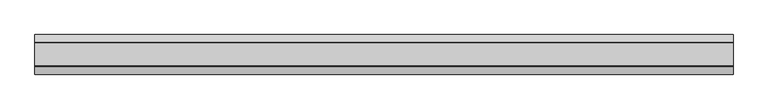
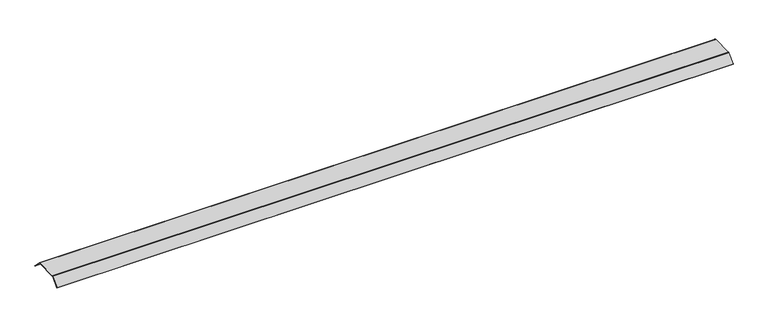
"""IFC4 building model written with IfcOpenShell, lengths in millimetres: proxy geometry, Electrical_Installation_Hager_Blank-Cover-800mm-Double-Sided-Height-70mm : Electrical_Installation_Hager_Blank-Cover-800mm-Double-Sided-Height-70mm."""

from ifc_helpers import new_model, si_unit, point, frame, frame_2d, origin, place, context, project, spatial, polyline, circle_curve, trimmed, segment, composite_curve, outline, extrude, source, transform, mapped, element, save


def electrical_fixtures_575a85fa(model_context):
    return source(origin(), model_context, "Body", "SweptSolid", [
        extrude(outline(composite_curve([segment(trimmed(circle_curve(frame_2d((100.0, 36.5)), 4.0), [point((100.0, 40.5))], [point((102.8284271, 39.3284271))], False, "CARTESIAN"), True, "CONTINUOUS"), segment(polyline([(102.8284271, 39.3284271), (170.78408, -28.6272257), (168.6627596, -30.7485461), (100.996177, 36.9180366)]), True, "CONTINUOUS"), segment(trimmed(circle_curve(frame_2d((99.591193, 35.5130527)), 1.9869473), [point((100.996177, 36.9180366))], [point((99.591193, 37.5))], True, "CARTESIAN"), True, "CONTINUOUS"), segment(polyline([(99.591193, 37.5), (-99.8229541, 37.5)]), True, "CONTINUOUS"), segment(trimmed(circle_curve(frame_2d((-99.8229541, 36.0725733)), 1.4274267), [point((-99.8229541, 37.5))], [point((-100.8322972, 37.0819164))], True, "CARTESIAN"), True, "CONTINUOUS"), segment(polyline([(-100.8322972, 37.0819164), (-168.6627596, -30.7485461), (-170.78408, -28.6272257), (-102.8206472, 39.336207)]), True, "CONTINUOUS"), segment(trimmed(circle_curve(frame_2d((-100.0110025, 36.5265623)), 3.9734377), [point((-102.8206472, 39.336207))], [point((-100.0110025, 40.5))], False, "CARTESIAN"), True, "CONTINUOUS"), segment(polyline([(-100.0110025, 40.5), (100.0, 40.5)]), True, "CONTINUOUS")], self_intersect=False)), frame((0.0, 0.0, 0.0), z_axis=(1.0, 0.0, 0.0), x_axis=(0.0, 1.0, 0.0)), (0.0, 0.0, 1.0), 6011.6956759),
    ])


if __name__ == "__main__":
    model = new_model("IFC4")
    model_context = context("Model", 3, world=origin())
    ifc_project = project(units=[si_unit("LENGTHUNIT", "METRE", prefix="MILLI")], contexts=[model_context])
    site = spatial("IfcSite", under=ifc_project)
    building = spatial("IfcBuilding", under=site)
    placement = place(None, origin())
    electrical_fixtures_shape = electrical_fixtures_575a85fa(model_context)
    element("IfcBuildingElementProxy", 1, Name="Electrical_Installation_Hager_Blank-Cover-800mm-Double-Sided-Height-70mm : Electrical_Installation_Hager_Blank-Cover-800mm-Double-Sided-Height-70mm", ObjectType="Electrical_Installation_Hager_Blank-Cover-800mm-Double-Sided-Height-70mm : Electrical_Installation_Hager_Blank-Cover-800mm-Double-Sided-Height-70mm", at=placement, inside=building, context=model_context, shape_type="MappedRepresentation", body=[
        mapped(electrical_fixtures_shape, transform((0.0, 0.0, 0.0), x_axis=(1.0, 0.0, 0.0), y_axis=(0.0, 1.0, 0.0), z_axis=(0.0, 0.0, 1.0))),
    ])
    save(model, "model.ifc")
